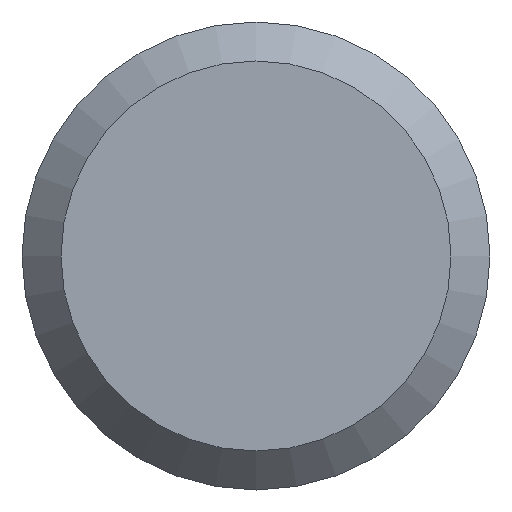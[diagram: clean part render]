
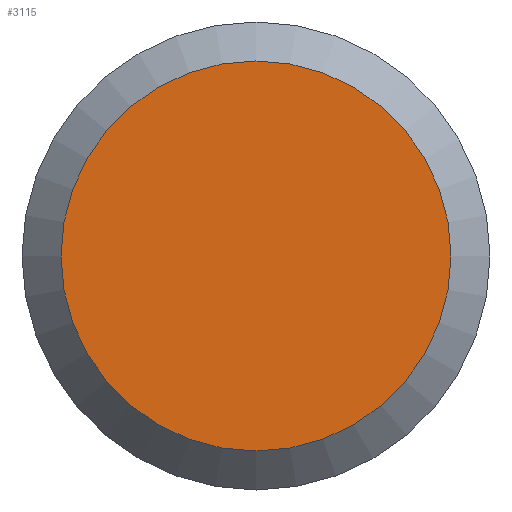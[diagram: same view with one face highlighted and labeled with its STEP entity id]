
A CAD part, left-side view. The second image highlights one B-rep face of the part: STEP entity #3115.
In plain terms, the highlighted planar face has unit normal (-1, 0, 0).
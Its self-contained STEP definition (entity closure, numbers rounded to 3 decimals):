
#1140=PLANE('',#2885);
#1186=ORIENTED_EDGE('',*,*,#1602,.F.);
#1392=CIRCLE('',#2884,2.5);
#1497=VERTEX_POINT('',#2566);
#1602=EDGE_CURVE('',#1497,#1497,#1392,.T.);
#1711=EDGE_LOOP('',(#1186));
#1921=FACE_BOUND('',#1711,.T.);
#2138=DIRECTION('',(1.,0.,0.));
#2139=DIRECTION('',(0.,-2.5,0.));
#2140=DIRECTION('',(-1.,0.,0.));
#2141=DIRECTION('',(0.,1.,0.));
#2566=CARTESIAN_POINT('',(40.,-2.5,0.));
#2567=CARTESIAN_POINT('',(40.,0.,0.));
#2568=CARTESIAN_POINT('',(40.,0.,0.));
#2884=AXIS2_PLACEMENT_3D('',#2567,#2138,#2139);
#2885=AXIS2_PLACEMENT_3D('',#2568,#2140,#2141);
#3115=ADVANCED_FACE('',(#1921),#1140,.T.);
